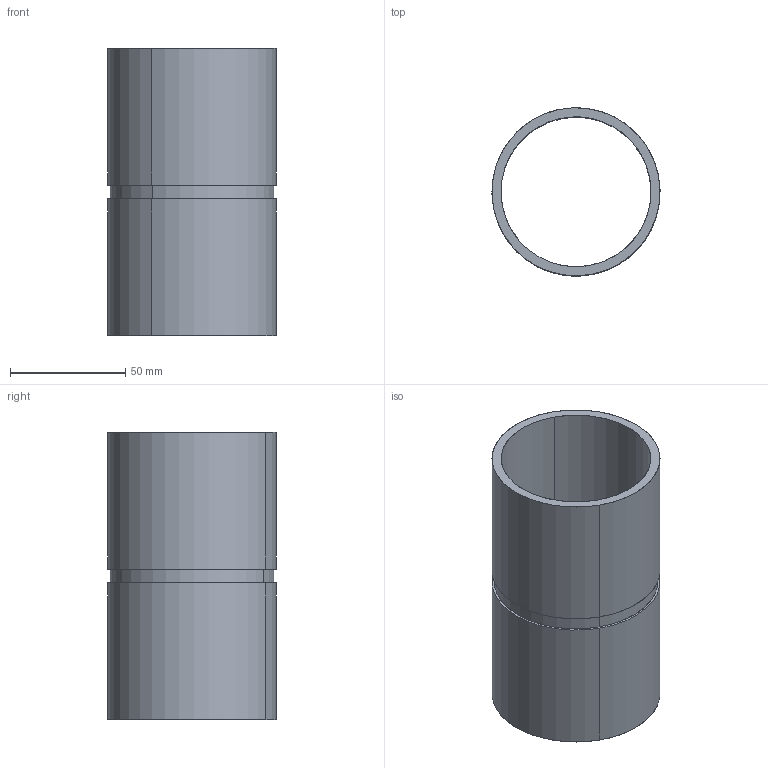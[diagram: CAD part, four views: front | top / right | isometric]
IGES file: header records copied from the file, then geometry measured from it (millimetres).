
Start section: START RECORD GO HERE.
Global section: file name: 395H 19-232-0150.igs; native system: DASSAULT SYSTEMES CATIA V5 R20 - www.3ds.com; preprocessor: CATIA Version 5 Release 20 ; author: Utente; organization: NB04-ASUS; date: 20200409.162232; units: millimetre
Bounding box: 73 x 73 x 125 mm (x, y, z)
Surface area: 56360.2 mm2 (no closed solid volume)
Topology: 0 solids, 0 shells, 12 faces, 51 edges, 55 vertices
Faces by surface type: revolution 8, plane 4
